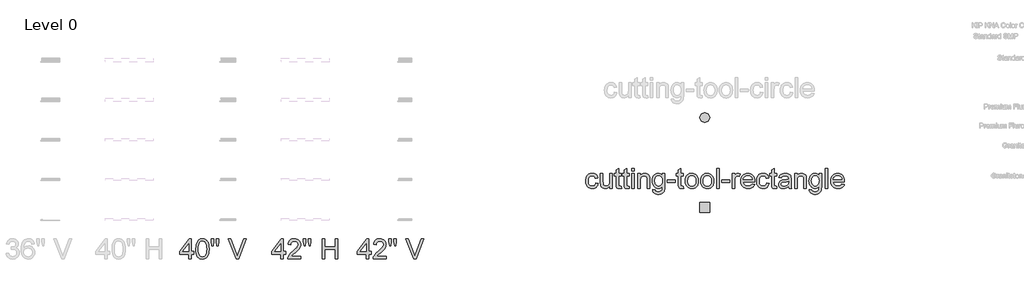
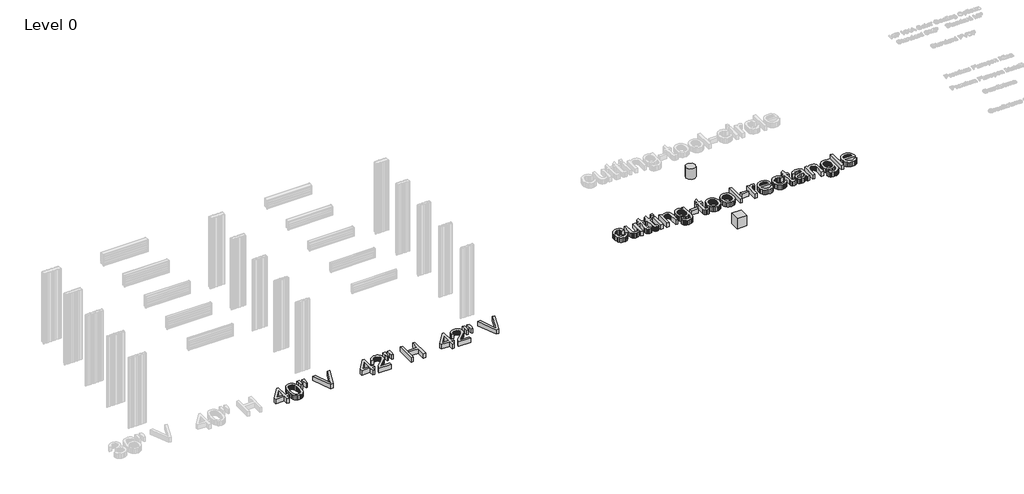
# One storey, part 4 of 5: 6 proxies.
"""IFC4 building model written with IfcOpenShell, lengths in millimetres."""

from ifc_helpers import new_model, si_unit, origin, origin_with_axes, place, context, project, spatial, polyline, outline, extrude, transform, mapped, element, save
from components import kingspan_ks_cutting_tool_circle_cutting_tool_circle_f6fe257a, kingspan_ks_cutting_tool_rectangle_cutting_tool_rectangle_f435e5aa

model = new_model("IFC4")

# Units and contexts
model_context = context("Model", 3, world=origin())
ifc_project = project(units=[si_unit("LENGTHUNIT", "METRE", prefix="MILLI")], contexts=[model_context])

# Site, building, storey
site = spatial("IfcSite", under=ifc_project)
building = spatial("IfcBuilding", under=site)
storey = spatial("IfcBuildingStorey", under=building, Name="Level 0", Elevation=0.0)

# Proxies
placement = place(None, origin())
element("IfcBuildingElementProxy", 1, Name="24\" Arial", ObjectType="24\" Arial", at=placement, inside=storey, context=model_context, shape_type="SweptSolid", body=[
    extrude(outline(polyline([(-11980.2863907, 7226.0033745), (-11980.2863907, 7368.7691999), (-12256.3003197, 7368.7691999), (-12256.3003197, 7444.9109734), (-11961.2509473, 7825.619841), (-11904.1446171, 7825.619841), (-11904.1446171, 7444.9109734), (-11828.0028436, 7444.9109734), (-11828.0028436, 7368.7691999), (-11904.1446171, 7368.7691999), (-11904.1446171, 7226.0033745), (-11980.2863907, 7226.0033745)]), holes=[polyline([(-11980.2863907, 7444.9109734), (-11980.2863907, 7680.1771564), (-12162.6102468, 7444.9109734), (-11980.2863907, 7444.9109734)])]), origin_with_axes(), (0.0, 0.0, 1.0), 152.4),
    extrude(outline(polyline([(-11761.3787918, 7525.6628934), (-11755.7834124, 7623.1637728), (-11748.7891882, 7664.5110237), (-11738.9972744, 7700.9228154), (-11726.4494968, 7732.6965767), (-11711.1876813, 7760.1297365), (-11693.211828, 7783.2222946), (-11672.521937, 7801.9742512), (-11649.0482982, 7816.4831999), (-11622.7212018, 7826.8467348), (-11593.5406478, 7833.0648557), (-11561.5066363, 7835.1375627), (-11514.5872427, 7830.2299874), (-11472.5754243, 7815.5072617), (-11437.4416469, 7791.5456538), (-11411.1563765, 7758.921432), (-11391.3030039, 7717.9134358), (-11375.4649202, 7668.8005047), (-11365.0920907, 7606.4334026), (-11361.6344808, 7525.6628934), (-11367.1740923, 7428.7196929), (-11374.0986066, 7387.5118618), (-11383.7929266, 7351.1465433), (-11396.2431104, 7319.35884), (-11411.435216, 7291.8838544), (-11429.3692433, 7268.7215863), (-11450.0451925, 7249.872036), (-11473.5467152, 7235.2654933), (-11499.9574634, 7224.8322486), (-11529.2774371, 7218.5723018), (-11561.5066363, 7216.4856528), (-11603.4440975, 7220.1105664), (-11640.6226979, 7230.985307), (-11673.0424374, 7249.1098747), (-11700.703316, 7274.4842694), (-11727.2488367, 7320.3533676), (-11746.2099228, 7377.506171), (-11757.5865746, 7445.9426796), (-11761.3787918, 7525.6628934)]), holes=[polyline([(-11685.2370183, 7525.8116078), (-11683.0063023, 7459.6197572), (-11676.3141542, 7406.0407467), (-11665.1605741, 7365.0745765), (-11649.5455619, 7336.7212464), (-11630.658833, 7317.4302001), (-11609.6901024, 7303.6508814), (-11586.6393701, 7295.3832901), (-11561.5066363, 7292.6274264), (-11536.3739025, 7295.3925848), (-11513.3231703, 7303.68806), (-11492.3544397, 7317.513852), (-11473.4677107, 7336.8699608), (-11457.8526985, 7365.2697641), (-11446.6991184, 7406.2266397), (-11440.0069704, 7459.7405876), (-11437.7762543, 7525.8116078), (-11439.9326132, 7590.2514168), (-11446.4016896, 7642.8870203), (-11457.1834837, 7683.7184181), (-11472.2779955, 7712.7456103), (-11490.8487063, 7732.9800636), (-11512.0590978, 7747.4332444), (-11535.90917, 7756.105153), (-11562.3989227, 7758.9957892), (-11587.4015315, 7756.449055), (-11610.0618884, 7748.8088527), (-11630.3799935, 7736.075182), (-11648.3558467, 7718.2480432), (-11664.4913593, 7686.6462329), (-11676.0167254, 7644.0395569), (-11682.9319451, 7590.4280152), (-11685.2370183, 7525.8116078)])]), origin_with_axes(), (0.0, 0.0, 1.0), 152.4),
    extrude(outline(polyline([(-11276.4211288, 7616.2299638), (-11295.010429, 7733.8630553), (-11295.010429, 7835.1375627), (-11218.8686555, 7835.1375627), (-11218.8686555, 7733.8630553), (-11235.5246684, 7616.2299638), (-11276.4211288, 7616.2299638)])), origin_with_axes(), (0.0, 0.0, 1.0), 152.4),
    extrude(outline(polyline([(-11124.583725, 7616.2299638), (-11142.726882, 7733.8630553), (-11142.726882, 7835.1375627), (-11066.5851084, 7835.1375627), (-11066.5851084, 7733.8630553), (-11084.4308366, 7616.2299638), (-11124.583725, 7616.2299638)])), origin_with_axes(), (0.0, 0.0, 1.0), 152.4),
    extrude(outline(polyline([(-10544.0027019, 7226.0033745), (-10786.4071762, 7835.1375627), (-10704.9116842, 7835.1375627), (-10542.6642723, 7396.2813641), (-10509.7983896, 7297.3862872), (-10477.3786501, 7396.2813641), (-10314.685095, 7835.1375627), (-10233.189603, 7835.1375627), (-10465.3327836, 7226.0033745), (-10544.0027019, 7226.0033745)])), origin_with_axes(), (0.0, 0.0, 1.0), 152.4),
])
element("IfcBuildingElementProxy", 2, Name="24\" Arial", ObjectType="24\" Arial", at=placement, inside=storey, context=model_context, shape_type="SweptSolid", body=[
    extrude(outline(polyline([(-9186.2863907, 7226.0033745), (-9186.2863907, 7368.7691999), (-9462.3003197, 7368.7691999), (-9462.3003197, 7444.9109734), (-9167.2509473, 7825.619841), (-9110.1446171, 7825.619841), (-9110.1446171, 7444.9109734), (-9034.0028436, 7444.9109734), (-9034.0028436, 7368.7691999), (-9110.1446171, 7368.7691999), (-9110.1446171, 7226.0033745), (-9186.2863907, 7226.0033745)]), holes=[polyline([(-9186.2863907, 7444.9109734), (-9186.2863907, 7680.1771564), (-9368.6102468, 7444.9109734), (-9186.2863907, 7444.9109734)])]), origin_with_axes(), (0.0, 0.0, 1.0), 152.4),
    extrude(outline(polyline([(-8577.1522025, 7302.1451481), (-8577.1522025, 7226.0033745), (-8976.8965135, 7226.0033745), (-8975.2234765, 7252.8091454), (-8968.7172214, 7278.4995582), (-8949.9420282, 7319.5261437), (-8922.4670426, 7359.3258354), (-8882.7231188, 7400.9844571), (-8827.1411113, 7447.5878326), (-8744.9764045, 7520.5694251), (-8695.6775804, 7574.441217), (-8681.2987567, 7596.4509484), (-8671.0281684, 7618.163251), (-8664.8658154, 7639.5781248), (-8662.8116977, 7660.6955698), (-8664.7496323, 7680.5628844), (-8670.5634359, 7698.8222245), (-8680.2531086, 7715.4735901), (-8693.8186504, 7730.5169813), (-8710.5071946, 7742.9764597), (-8729.5658747, 7751.8760872), (-8750.9946904, 7757.2158637), (-8774.793642, 7758.9957892), (-8799.8659606, 7757.2576896), (-8822.2893039, 7752.0433909), (-8842.063672, 7743.3528931), (-8859.1890648, 7731.1861961), (-8873.0427407, 7715.9522646), (-8883.0019583, 7698.0600632), (-8889.0667175, 7677.5095918), (-8891.2370183, 7654.3008506), (-8967.3787918, 7663.8185723), (-8960.8307108, 7703.1256475), (-8948.9196167, 7737.4693796), (-8931.6455095, 7766.8497685), (-8909.0083892, 7791.2668143), (-8881.5287563, 7810.4602667), (-8849.727111, 7824.1698756), (-8813.6034534, 7832.3956409), (-8773.1577836, 7835.1375627), (-8732.3496224, 7832.0889174), (-8696.0307771, 7822.9429818), (-8664.2012479, 7807.6997556), (-8636.8610347, 7786.359239), (-8614.9024238, 7760.5015225), (-8599.2177018, 7731.7066965), (-8589.8068686, 7699.9747611), (-8586.6699242, 7665.3057163), (-8590.0531768, 7628.8892772), (-8600.2029347, 7593.1048744), (-8618.2159666, 7556.7070247), (-8645.1890412, 7518.4502449), (-8688.1860925, 7472.7763344), (-8754.2710546, 7414.1270923), (-8841.863837, 7340.8852496), (-8876.2168637, 7302.1451481), (-8577.1522025, 7302.1451481)])), origin_with_axes(), (0.0, 0.0, 1.0), 152.4),
    extrude(outline(polyline([(-8482.4211288, 7616.2299638), (-8501.010429, 7733.8630553), (-8501.010429, 7835.1375627), (-8424.8686555, 7835.1375627), (-8424.8686555, 7733.8630553), (-8441.5246684, 7616.2299638), (-8482.4211288, 7616.2299638)])), origin_with_axes(), (0.0, 0.0, 1.0), 152.4),
    extrude(outline(polyline([(-8330.583725, 7616.2299638), (-8348.726882, 7733.8630553), (-8348.726882, 7835.1375627), (-8272.5851084, 7835.1375627), (-8272.5851084, 7733.8630553), (-8290.4308366, 7616.2299638), (-8330.583725, 7616.2299638)])), origin_with_axes(), (0.0, 0.0, 1.0), 152.4),
    extrude(outline(polyline([(-7929.9471276, 7226.0033745), (-7929.9471276, 7835.1375627), (-7853.8053541, 7835.1375627), (-7853.8053541, 7587.6767987), (-7530.2028167, 7587.6767987), (-7530.2028167, 7835.1375627), (-7454.0610431, 7835.1375627), (-7454.0610431, 7226.0033745), (-7530.2028167, 7226.0033745), (-7530.2028167, 7511.5350252), (-7853.8053541, 7511.5350252), (-7853.8053541, 7226.0033745), (-7929.9471276, 7226.0033745)])), origin_with_axes(), (0.0, 0.0, 1.0), 152.4),
])
element("IfcBuildingElementProxy", 3, Name="24\" Arial", ObjectType="24\" Arial", at=placement, inside=storey, context=model_context, shape_type="SweptSolid", body=[
    extrude(outline(polyline([(-6595.4863907, 7226.0033745), (-6595.4863907, 7368.7691999), (-6871.5003197, 7368.7691999), (-6871.5003197, 7444.9109734), (-6576.4509473, 7825.619841), (-6519.3446171, 7825.619841), (-6519.3446171, 7444.9109734), (-6443.2028436, 7444.9109734), (-6443.2028436, 7368.7691999), (-6519.3446171, 7368.7691999), (-6519.3446171, 7226.0033745), (-6595.4863907, 7226.0033745)]), holes=[polyline([(-6595.4863907, 7444.9109734), (-6595.4863907, 7680.1771564), (-6777.8102468, 7444.9109734), (-6595.4863907, 7444.9109734)])]), origin_with_axes(), (0.0, 0.0, 1.0), 152.4),
    extrude(outline(polyline([(-5986.3522025, 7302.1451481), (-5986.3522025, 7226.0033745), (-6386.0965135, 7226.0033745), (-6384.4234765, 7252.8091454), (-6377.9172214, 7278.4995582), (-6359.1420282, 7319.5261437), (-6331.6670426, 7359.3258354), (-6291.9231188, 7400.9844571), (-6236.3411113, 7447.5878326), (-6154.1764045, 7520.5694251), (-6104.8775804, 7574.441217), (-6090.4987567, 7596.4509484), (-6080.2281684, 7618.163251), (-6074.0658154, 7639.5781248), (-6072.0116977, 7660.6955698), (-6073.9496323, 7680.5628844), (-6079.7634359, 7698.8222245), (-6089.4531086, 7715.4735901), (-6103.0186504, 7730.5169813), (-6119.7071946, 7742.9764597), (-6138.7658747, 7751.8760872), (-6160.1946904, 7757.2158637), (-6183.993642, 7758.9957892), (-6209.0659606, 7757.2576896), (-6231.4893039, 7752.0433909), (-6251.263672, 7743.3528931), (-6268.3890648, 7731.1861961), (-6282.2427407, 7715.9522646), (-6292.2019583, 7698.0600632), (-6298.2667175, 7677.5095918), (-6300.4370183, 7654.3008506), (-6376.5787918, 7663.8185723), (-6370.0307108, 7703.1256475), (-6358.1196167, 7737.4693796), (-6340.8455095, 7766.8497685), (-6318.2083892, 7791.2668143), (-6290.7287563, 7810.4602667), (-6258.927111, 7824.1698756), (-6222.8034534, 7832.3956409), (-6182.3577836, 7835.1375627), (-6141.5496224, 7832.0889174), (-6105.2307771, 7822.9429818), (-6073.4012479, 7807.6997556), (-6046.0610347, 7786.359239), (-6024.1024238, 7760.5015225), (-6008.4177018, 7731.7066965), (-5999.0068686, 7699.9747611), (-5995.8699242, 7665.3057163), (-5999.2531768, 7628.8892772), (-6009.4029347, 7593.1048744), (-6027.4159666, 7556.7070247), (-6054.3890412, 7518.4502449), (-6097.3860925, 7472.7763344), (-6163.4710546, 7414.1270923), (-6251.063837, 7340.8852496), (-6285.4168637, 7302.1451481), (-5986.3522025, 7302.1451481)])), origin_with_axes(), (0.0, 0.0, 1.0), 152.4),
    extrude(outline(polyline([(-5891.6211288, 7616.2299638), (-5910.210429, 7733.8630553), (-5910.210429, 7835.1375627), (-5834.0686555, 7835.1375627), (-5834.0686555, 7733.8630553), (-5850.7246684, 7616.2299638), (-5891.6211288, 7616.2299638)])), origin_with_axes(), (0.0, 0.0, 1.0), 152.4),
    extrude(outline(polyline([(-5739.783725, 7616.2299638), (-5757.926882, 7733.8630553), (-5757.926882, 7835.1375627), (-5681.7851084, 7835.1375627), (-5681.7851084, 7733.8630553), (-5699.6308366, 7616.2299638), (-5739.783725, 7616.2299638)])), origin_with_axes(), (0.0, 0.0, 1.0), 152.4),
    extrude(outline(polyline([(-5159.2027019, 7226.0033745), (-5401.6071762, 7835.1375627), (-5320.1116842, 7835.1375627), (-5157.8642723, 7396.2813641), (-5124.9983896, 7297.3862872), (-5092.5786501, 7396.2813641), (-4929.885095, 7835.1375627), (-4848.389603, 7835.1375627), (-5080.5327836, 7226.0033745), (-5159.2027019, 7226.0033745)])), origin_with_axes(), (0.0, 0.0, 1.0), 152.4),
])
element("IfcBuildingElementProxy", 4, Name="24\" Arial", ObjectType="24\" Arial", at=placement, inside=storey, context=model_context, shape_type="SweptSolid", body=[
    extrude(outline(polyline([(358.2774016, 9526.3022636), (434.4191751, 9516.7845419), (426.1376419, 9480.856072), (413.1901943, 9449.0637214), (395.5768324, 9421.4074901), (373.2975561, 9397.887378), (347.2911252, 9379.1168322), (318.4962992, 9365.7092994), (286.9130782, 9357.6647798), (252.5414622, 9354.9832732), (209.8371923, 9358.7243699), (171.5478813, 9369.9476598), (137.6735291, 9388.6531431), (108.2141356, 9414.8408198), (84.3687108, 9448.0180733), (67.3362645, 9487.6922872), (57.1167968, 9533.8634615), (53.7103075, 9586.5315962), (59.5287585, 9654.2895953), (66.8018221, 9684.7806949), (76.9841113, 9713.0131946), (90.1453358, 9738.4201206), (106.3552056, 9760.4344993), (125.6137206, 9779.0563308), (147.9208808, 9794.2856149), (172.2682167, 9806.1269992), (197.6472588, 9814.5851307), (224.058007, 9819.6600097), (251.5004614, 9821.351636), (285.2818671, 9819.0279735), (315.8380293, 9812.0569859), (343.1689478, 9800.4386733), (367.2746228, 9784.1730356), (387.7460897, 9763.631859), (404.1743837, 9739.1869292), (416.5595049, 9710.8382465), (424.9014534, 9678.5858107), (348.7596799, 9669.068089), (334.9478298, 9702.2871684), (313.4400095, 9726.1000619), (285.4259342, 9740.4324123), (252.095319, 9745.2098625), (226.2236604, 9742.858316), (202.8894414, 9735.8036766), (182.0926618, 9724.0459442), (163.8333217, 9707.5851189), (148.9665289, 9686.04012), (138.3473912, 9659.0298669), (131.9759086, 9626.5543595), (129.852081, 9588.6135978), (131.9294353, 9550.1012152), (138.1614982, 9517.2492744), (148.5482697, 9490.0577756), (163.0897497, 9468.5267187), (180.9865985, 9452.1634872), (201.439476, 9440.4754647), (224.4483823, 9433.4626512), (250.0133173, 9431.1250467), (289.441223, 9436.962087), (306.4922586, 9444.2583873), (321.768016, 9454.4732077), (334.8409414, 9467.7180841), (345.2834807, 9484.1045522), (353.0956341, 9503.6326121), (358.2774016, 9526.3022636)])), origin_with_axes(), (0.0, 0.0, 1.0), 152.4),
    extrude(outline(polyline([(786.5748776, 9364.5009949), (786.5748776, 9441.3863404), (759.0255347, 9403.5849985), (726.9404026, 9376.58404), (690.3194813, 9360.3834649), (649.1627707, 9354.9832732), (612.0771169, 9358.7754904), (577.5567864, 9370.1521421), (548.5946568, 9387.2542983), (528.1836052, 9408.2230289), (514.4461123, 9433.6903701), (505.504659, 9464.2883582), (501.0432269, 9535.0764133), (501.0432269, 9811.8339143), (577.1850004, 9811.8339143), (577.1850004, 9570.916584), (578.337537, 9522.733118), (581.7951469, 9493.2876665), (592.8929591, 9467.3927714), (611.9098132, 9447.7067025), (637.5816367, 9435.2704607), (668.6443573, 9431.1250467), (701.4916507, 9435.3634072), (732.2197639, 9448.0784885), (757.55698, 9468.0991648), (774.2315823, 9494.2543101), (783.4890538, 9530.0758916), (786.5748776, 9579.0958761), (786.5748776, 9811.8339143), (862.7166511, 9811.8339143), (862.7166511, 9364.5009949), (786.5748776, 9364.5009949)])), origin_with_axes(), (0.0, 0.0, 1.0), 152.4),
    extrude(outline(polyline([(1129.2128584, 9428.0020443), (1138.7305801, 9362.2702789), (1108.5787352, 9356.8050246), (1081.7729644, 9354.9832732), (1045.2264002, 9358.1434542), (1017.9744862, 9367.6239973), (998.7159712, 9382.2351873), (986.1496043, 9400.7873088), (979.2343846, 9432.6493693), (976.9293114, 9487.1903761), (976.9293114, 9735.6921408), (919.8229813, 9735.6921408), (919.8229813, 9811.8339143), (976.9293114, 9811.8339143), (976.9293114, 9920.5441417), (1053.0710849, 9965.3071766), (1053.0710849, 9811.8339143), (1129.2128584, 9811.8339143), (1129.2128584, 9735.6921408), (1053.0710849, 9735.6921408), (1053.0710849, 9489.4210921), (1057.0863737, 9450.1604901), (1070.0988839, 9436.2556936), (1081.0851603, 9432.4077084), (1096.0495469, 9431.1250467), (1129.2128584, 9428.0020443)])), origin_with_axes(), (0.0, 0.0, 1.0), 152.4),
    extrude(outline(polyline([(1367.1559007, 9428.0020443), (1376.6736224, 9362.2702789), (1346.5217775, 9356.8050246), (1319.7160066, 9354.9832732), (1283.1694425, 9358.1434542), (1255.9175284, 9367.6239973), (1236.6590134, 9382.2351873), (1224.0926465, 9400.7873088), (1217.1774269, 9432.6493693), (1214.8723536, 9487.1903761), (1214.8723536, 9735.6921408), (1157.7660235, 9735.6921408), (1157.7660235, 9811.8339143), (1214.8723536, 9811.8339143), (1214.8723536, 9920.5441417), (1291.0141271, 9965.3071766), (1291.0141271, 9811.8339143), (1367.1559007, 9811.8339143), (1367.1559007, 9735.6921408), (1291.0141271, 9735.6921408), (1291.0141271, 9489.4210921), (1295.029416, 9450.1604901), (1308.0419261, 9436.2556936), (1319.0282025, 9432.4077084), (1333.9925892, 9431.1250467), (1367.1559007, 9428.0020443)])), origin_with_axes(), (0.0, 0.0, 1.0), 152.4),
    extrude(outline(polyline([(1443.2976742, 9897.4934095), (1443.2976742, 9973.635183), (1519.4394477, 9973.635183), (1519.4394477, 9897.4934095), (1443.2976742, 9897.4934095)])), origin_with_axes(), (0.0, 0.0, 1.0), 152.4),
    extrude(outline(polyline([(1443.2976742, 9364.5009949), (1443.2976742, 9811.8339143), (1519.4394477, 9811.8339143), (1519.4394477, 9364.5009949), (1443.2976742, 9364.5009949)])), origin_with_axes(), (0.0, 0.0, 1.0), 152.4),
    extrude(outline(polyline([(1633.652108, 9364.5009949), (1633.652108, 9811.8339143), (1709.7938815, 9811.8339143), (1709.7938815, 9749.3738657), (1736.2464556, 9780.8641402), (1768.0155696, 9803.3571934), (1805.1012235, 9816.8530254), (1847.5034172, 9821.351636), (1885.0352142, 9817.7267225), (1919.4068303, 9806.8519819), (1948.0715311, 9790.0844331), (1968.4825827, 9768.7810951), (1982.3316114, 9742.9977358), (1991.3102433, 9712.790123), (1995.3255322, 9639.1764943), (1995.3255322, 9364.5009949), (1919.1837587, 9364.5009949), (1919.1837587, 9628.9152006), (1916.9902212, 9668.2873384), (1910.409609, 9696.2828244), (1898.270796, 9716.3406793), (1879.4026563, 9731.8999236), (1855.2179768, 9741.8823778), (1827.1295442, 9745.2098625), (1804.0091021, 9743.3416378), (1782.5338131, 9737.7369638), (1762.7036771, 9728.3958405), (1744.5186942, 9715.3182678), (1729.3265887, 9697.0171018), (1718.4750847, 9672.0051984), (1711.9641823, 9640.2825576), (1709.7938815, 9601.8491795), (1709.7938815, 9364.5009949), (1633.652108, 9364.5009949)])), origin_with_axes(), (0.0, 0.0, 1.0), 152.4),
    extrude(outline(polyline([(2080.9850274, 9326.4301081), (2157.1268009, 9316.9123864), (2165.5291646, 9293.1180822), (2181.8133915, 9276.7594981), (2213.8241664, 9264.0444168), (2255.724449, 9259.8060563), (2300.4131267, 9264.6020958), (2318.4633371, 9270.5971451), (2333.6507954, 9278.9902141), (2356.7015276, 9302.0409463), (2370.8293957, 9332.8248274), (2374.9562204, 9365.5791743), (2376.0343998, 9421.607325), (2350.6971836, 9396.6233056), (2322.4228581, 9378.7775774), (2291.2114231, 9368.0701405), (2257.0628786, 9364.5009949), (2215.3159578, 9368.6557035), (2178.560264, 9381.1198293), (2146.7957973, 9401.8933722), (2120.0225578, 9430.9763323), (2098.779635, 9465.8684488), (2083.6061187, 9504.0694606), (2074.502009, 9545.5793679), (2071.4673057, 9590.3981706), (2076.9139707, 9651.8729863), (2093.2539655, 9708.4030481), (2105.3648946, 9733.893626), (2119.911022, 9756.3076747), (2136.8923477, 9775.6451942), (2156.3088717, 9791.9061845), (2177.8492233, 9804.7885695), (2201.2020316, 9813.9902731), (2226.3672967, 9819.5112953), (2253.3450186, 9821.351636), (2288.9528231, 9817.1876328), (2321.2703215, 9804.695623), (2350.2975137, 9783.8756068), (2376.0343998, 9754.7275842), (2376.0343998, 9811.8339143), (2452.1761733, 9811.8339143), (2452.1761733, 9425.6226139), (2446.9711692, 9336.4497409), (2440.4649142, 9303.2817821), (2431.3561571, 9277.7261417), (2419.4264737, 9257.1152551), (2404.4574397, 9238.7815578), (2386.4490552, 9222.7250498), (2365.4013201, 9208.945731), (2341.5280113, 9197.8850974), (2315.0429059, 9189.9846449), (2285.9460038, 9185.2443733), (2254.237305, 9183.6642828), (2216.9332269, 9185.8903515), (2183.3934821, 9192.5685576), (2153.6180705, 9203.6989011), (2127.6069922, 9219.2813819), (2106.5964357, 9239.3345895), (2091.8225894, 9263.877113), (2083.2854533, 9292.9089526), (2080.9850274, 9326.4301081)]), holes=[polyline([(2147.6090792, 9595.6031747), (2149.6399603, 9557.9551945), (2155.7326034, 9525.7631739), (2165.8870086, 9499.0271129), (2180.1031759, 9477.7470116), (2197.3865778, 9461.5139052), (2216.7426866, 9449.9188292), (2238.1715023, 9442.9617836), (2261.6730251, 9440.6427684), (2284.9421816, 9442.9478416), (2306.2687562, 9449.8630613), (2325.652749, 9461.3884274), (2343.0941599, 9477.52394), (2357.5055148, 9498.5949117), (2367.7993398, 9524.9266554), (2373.9756348, 9556.5191711), (2376.0343998, 9593.3724587), (2373.9152195, 9628.6874817), (2367.5576789, 9659.3830636), (2356.9617778, 9685.4592044), (2342.1275162, 9706.9159041), (2324.309672, 9723.6695109), (2304.7630229, 9735.6363729), (2283.4875688, 9742.8164901), (2260.4833099, 9745.2098625), (2237.8647789, 9742.8536687), (2217.0029368, 9735.7850873), (2197.8977835, 9724.0041183), (2180.5493191, 9707.5107617), (2166.1379642, 9686.3793748), (2155.8441392, 9660.6843146), (2149.6678442, 9630.4255812), (2147.6090792, 9595.6031747)])]), origin_with_axes(), (0.0, 0.0, 1.0), 152.4),
    extrude(outline(polyline([(2528.3179468, 9545.337707), (2528.3179468, 9621.4794805), (2766.260989, 9621.4794805), (2766.260989, 9545.337707), (2528.3179468, 9545.337707)])), origin_with_axes(), (0.0, 0.0, 1.0), 152.4),
    extrude(outline(polyline([(3013.721753, 9428.0020443), (3023.2394747, 9362.2702789), (2993.0876298, 9356.8050246), (2966.2818589, 9354.9832732), (2929.7352948, 9358.1434542), (2902.4833807, 9367.6239973), (2883.2248657, 9382.2351873), (2870.6584988, 9400.7873088), (2863.7432792, 9432.6493693), (2861.4382059, 9487.1903761), (2861.4382059, 9735.6921408), (2804.3318758, 9735.6921408), (2804.3318758, 9811.8339143), (2861.4382059, 9811.8339143), (2861.4382059, 9920.5441417), (2937.5799795, 9965.3071766), (2937.5799795, 9811.8339143), (3013.721753, 9811.8339143), (3013.721753, 9735.6921408), (2937.5799795, 9735.6921408), (2937.5799795, 9489.4210921), (2941.5952683, 9450.1604901), (2954.6077784, 9436.2556936), (2965.5940548, 9432.4077084), (2980.5584415, 9431.1250467), (3013.721753, 9428.0020443)])), origin_with_axes(), (0.0, 0.0, 1.0), 152.4),
    extrude(outline(polyline([(3070.8280831, 9588.1674546), (3074.9456131, 9646.1010086), (3087.2982031, 9696.0225742), (3107.885853, 9737.9321515), (3136.7085629, 9771.8297403), (3165.7264605, 9793.4955697), (3197.7558247, 9808.9711621), (3232.7966555, 9818.2565175), (3270.848953, 9821.351636), (3312.8561241, 9817.5826554), (3350.8387116, 9806.2757136), (3384.7967157, 9787.4308105), (3414.7301363, 9761.0479462), (3439.1611241, 9728.0194071), (3456.6118296, 9689.2374797), (3467.082253, 9644.7021638), (3470.5723941, 9594.4134595), (3469.0294822, 9553.6564188), (3464.4007464, 9517.4909353), (3456.6861868, 9485.917009), (3445.8858034, 9458.9346398), (3432.1343686, 9435.6283047), (3415.5666549, 9415.0824807), (3396.1826621, 9397.2971677), (3373.9823904, 9382.2723659), (3349.8302421, 9370.3333878), (3324.5906198, 9361.8055464), (3298.2635234, 9356.6888415), (3270.848953, 9354.9832732), (3228.228335, 9358.7383118), (3189.8925507, 9370.0034277), (3155.8416001, 9388.7786209), (3126.0754832, 9415.0638914), (3101.9047457, 9448.4130959), (3084.6399331, 9488.3800913), (3074.2810456, 9534.9648775), (3070.8280831, 9588.1674546)]), holes=[polyline([(3146.9698566, 9588.316169), (3149.1726887, 9551.3838769), (3155.7811849, 9519.4056333), (3166.7953453, 9492.3814381), (3182.2151698, 9470.3112915), (3200.9717736, 9453.1673094), (3221.9962721, 9440.9216079), (3245.2886653, 9433.574187), (3270.848953, 9431.1250467), (3296.2791156, 9433.588129), (3319.4785623, 9440.9773758), (3340.4472928, 9453.2927872), (3359.1853074, 9470.5343631), (3374.6051319, 9492.822934), (3385.6192923, 9520.2793304), (3392.2277885, 9552.9035522), (3394.4306206, 9590.6955994), (3392.2138465, 9626.4567656), (3385.5635244, 9657.5984908), (3374.4796541, 9684.1207748), (3358.9622358, 9706.0236177), (3340.1545114, 9723.1675998), (3319.1997227, 9735.4133013), (3296.09787, 9742.7607222), (3270.848953, 9745.2098625), (3245.2886653, 9742.7700168), (3221.9962721, 9735.4504799), (3200.9717736, 9723.2512516), (3182.2151698, 9706.1723321), (3166.7953453, 9684.167248), (3155.7811849, 9657.1895262), (3149.1726887, 9625.2391665), (3146.9698566, 9588.316169)])]), origin_with_axes(), (0.0, 0.0, 1.0), 152.4),
    extrude(outline(polyline([(3537.1964459, 9588.1674546), (3541.3139759, 9646.1010086), (3553.6665659, 9696.0225742), (3574.2542158, 9737.9321515), (3603.0769257, 9771.8297403), (3632.0948233, 9793.4955697), (3664.1241875, 9808.9711621), (3699.1650183, 9818.2565175), (3737.2173158, 9821.351636), (3779.2244869, 9817.5826554), (3817.2070744, 9806.2757136), (3851.1650785, 9787.4308105), (3881.0984991, 9761.0479462), (3905.5294869, 9728.0194071), (3922.9801924, 9689.2374797), (3933.4506158, 9644.7021638), (3936.9407569, 9594.4134595), (3935.397845, 9553.6564188), (3930.7691092, 9517.4909353), (3923.0545496, 9485.917009), (3912.2541662, 9458.9346398), (3898.5027314, 9435.6283047), (3881.9350176, 9415.0824807), (3862.5510249, 9397.2971677), (3840.3507532, 9382.2723659), (3816.1986049, 9370.3333878), (3790.9589826, 9361.8055464), (3764.6318862, 9356.6888415), (3737.2173158, 9354.9832732), (3694.5966978, 9358.7383118), (3656.2609135, 9370.0034277), (3622.2099629, 9388.7786209), (3592.443846, 9415.0638914), (3568.2731085, 9448.4130959), (3551.0082959, 9488.3800913), (3540.6494084, 9534.9648775), (3537.1964459, 9588.1674546)]), holes=[polyline([(3613.3382194, 9588.316169), (3615.5410515, 9551.3838769), (3622.1495477, 9519.4056333), (3633.1637081, 9492.3814381), (3648.5835326, 9470.3112915), (3667.3401364, 9453.1673094), (3688.3646349, 9440.9216079), (3711.657028, 9433.574187), (3737.2173158, 9431.1250467), (3762.6474784, 9433.588129), (3785.846925, 9440.9773758), (3806.8156556, 9453.2927872), (3825.5536702, 9470.5343631), (3840.9734947, 9492.822934), (3851.9876551, 9520.2793304), (3858.5961513, 9552.9035522), (3860.7989834, 9590.6955994), (3858.5822093, 9626.4567656), (3851.9318872, 9657.5984908), (3840.8480169, 9684.1207748), (3825.3305986, 9706.0236177), (3806.5228742, 9723.1675998), (3785.5680855, 9735.4133013), (3762.4662327, 9742.7607222), (3737.2173158, 9745.2098625), (3711.657028, 9742.7700168), (3688.3646349, 9735.4504799), (3667.3401364, 9723.2512516), (3648.5835326, 9706.1723321), (3633.1637081, 9684.167248), (3622.1495477, 9657.1895262), (3615.5410515, 9625.2391665), (3613.3382194, 9588.316169)])]), origin_with_axes(), (0.0, 0.0, 1.0), 152.4),
    extrude(outline(polyline([(4022.6002521, 9364.5009949), (4022.6002521, 9973.635183), (4098.7420256, 9973.635183), (4098.7420256, 9364.5009949), (4022.6002521, 9364.5009949)])), origin_with_axes(), (0.0, 0.0, 1.0), 152.4),
    extrude(outline(polyline([(4174.8837991, 9545.337707), (4174.8837991, 9621.4794805), (4412.8268413, 9621.4794805), (4412.8268413, 9545.337707), (4174.8837991, 9545.337707)])), origin_with_axes(), (0.0, 0.0, 1.0), 152.4),
    extrude(outline(polyline([(4498.4863366, 9364.5009949), (4498.4863366, 9811.8339143), (4565.1103884, 9811.8339143), (4565.1103884, 9745.6560057), (4589.7226218, 9784.0243212), (4612.401568, 9806.6289103), (4635.1548714, 9817.6709546), (4659.9901765, 9821.351636), (4697.9123488, 9815.4774171), (4736.4293788, 9797.8547606), (4710.9992162, 9729.5948503), (4684.2306239, 9741.3061094), (4657.4620317, 9745.2098625), (4634.7273175, 9741.4548238), (4614.4092124, 9730.1897079), (4597.9948604, 9712.2696226), (4586.9714054, 9688.5496755), (4577.7139339, 9646.0173567), (4574.6281101, 9599.6184635), (4574.6281101, 9364.5009949), (4498.4863366, 9364.5009949)])), origin_with_axes(), (0.0, 0.0, 1.0), 152.4),
    extrude(outline(polyline([(5097.2105166, 9497.7490986), (5171.8651461, 9488.2313769), (5160.4187845, 9458.3304875), (5144.9664287, 9431.9801545), (5125.5080788, 9409.1803779), (5102.0437346, 9389.9311575), (5074.8150572, 9374.6414581), (5044.0637074, 9363.7202443), (5009.7896852, 9357.167516), (4971.9929906, 9354.9832732), (4924.7482842, 9358.7522538), (4882.652814, 9370.0591956), (4845.7065799, 9388.9040987), (4813.9095819, 9415.286963), (4788.3399995, 9448.4735111), (4770.0760121, 9487.7294658), (4759.1176197, 9533.0548269), (4755.4648222, 9584.4495946), (4759.1547983, 9637.5871091), (4770.2247265, 9684.4228509), (4788.6746069, 9724.9568199), (4814.5044395, 9759.1890162), (4846.2177856, 9786.3851624), (4882.3182066, 9805.8109811), (4922.8057024, 9817.4664723), (4967.680273, 9821.351636), (5011.1095255, 9817.4757669), (5050.3840695, 9805.8481597), (5085.5039048, 9786.4688142), (5116.4690316, 9759.3377306), (5141.7458325, 9725.1798915), (5159.8006903, 9684.7202797), (5170.633605, 9637.9588951), (5174.2445765, 9584.8957378), (5173.7984333, 9564.3731504), (4831.6065957, 9564.3731504), (4836.0169072, 9533.9889392), (4844.7864095, 9507.378356), (4857.9151028, 9484.5414008), (4875.4029869, 9465.4780734), (4896.2834183, 9450.4486243), (4919.5897534, 9439.7133034), (4945.3219922, 9433.2721109), (4973.4801346, 9431.1250467), (5014.004809, 9435.103157), (5048.1347641, 9447.0374877), (5075.87, 9467.6716109), (5097.2105166, 9497.7490986)]), holes=[polyline([(4831.6065957, 9640.5149239), (5098.102803, 9640.5149239), (5087.8043307, 9680.7421695), (5078.9465292, 9696.5616639), (5067.6163507, 9709.5184061), (5046.8521024, 9725.1334183), (5023.2251019, 9736.2869984), (4996.7353491, 9742.9791465), (4967.3828442, 9745.2098625), (4940.6096046, 9743.429937), (4916.0577864, 9738.0901605), (4893.7273896, 9729.1905331), (4873.6184141, 9716.7310546), (4856.7439769, 9701.2879935), (4844.1171947, 9683.437618), (4835.7380677, 9663.1799281), (4831.6065957, 9640.5149239)])]), origin_with_axes(), (0.0, 0.0, 1.0), 152.4),
    extrude(outline(polyline([(5535.9180007, 9526.3022636), (5612.0597742, 9516.7845419), (5603.778241, 9480.856072), (5590.8307934, 9449.0637214), (5573.2174315, 9421.4074901), (5550.9381553, 9397.887378), (5524.9317243, 9379.1168322), (5496.1368984, 9365.7092994), (5464.5536774, 9357.6647798), (5430.1820613, 9354.9832732), (5387.4777915, 9358.7243699), (5349.1884805, 9369.9476598), (5315.3141282, 9388.6531431), (5285.8547348, 9414.8408198), (5262.00931, 9448.0180733), (5244.9768637, 9487.6922872), (5234.7573959, 9533.8634615), (5231.3509067, 9586.5315962), (5237.1693576, 9654.2895953), (5244.4424213, 9684.7806949), (5254.6247105, 9713.0131946), (5267.785935, 9738.4201206), (5283.9958048, 9760.4344993), (5303.2543197, 9779.0563308), (5325.5614799, 9794.2856149), (5349.9088158, 9806.1269992), (5375.2878579, 9814.5851307), (5401.6986061, 9819.6600097), (5429.1410605, 9821.351636), (5462.9224663, 9819.0279735), (5493.4786284, 9812.0569859), (5520.809547, 9800.4386733), (5544.915222, 9784.1730356), (5565.3866888, 9763.631859), (5581.8149829, 9739.1869292), (5594.2001041, 9710.8382465), (5602.5420526, 9678.5858107), (5526.400279, 9669.068089), (5512.588429, 9702.2871684), (5491.0806087, 9726.1000619), (5463.0665333, 9740.4324123), (5429.7359181, 9745.2098625), (5403.8642596, 9742.858316), (5380.5300406, 9735.8036766), (5359.733261, 9724.0459442), (5341.4739209, 9707.5851189), (5326.6071281, 9686.04012), (5315.9879904, 9659.0298669), (5309.6165077, 9626.5543595), (5307.4926802, 9588.6135978), (5309.5700345, 9550.1012152), (5315.8020974, 9517.2492744), (5326.1888688, 9490.0577756), (5340.7303489, 9468.5267187), (5358.6271976, 9452.1634872), (5379.0800751, 9440.4754647), (5402.0889814, 9433.4626512), (5427.6539165, 9431.1250467), (5467.0818222, 9436.962087), (5484.1328578, 9444.2583873), (5499.4086152, 9454.4732077), (5512.4815405, 9467.7180841), (5522.9240799, 9484.1045522), (5530.7362333, 9503.6326121), (5535.9180007, 9526.3022636)])), origin_with_axes(), (0.0, 0.0, 1.0), 152.4),
    extrude(outline(polyline([(5840.4850948, 9428.0020443), (5850.0028165, 9362.2702789), (5819.8509716, 9356.8050246), (5793.0452007, 9354.9832732), (5756.4986366, 9358.1434542), (5729.2467225, 9367.6239973), (5709.9882076, 9382.2351873), (5697.4218406, 9400.7873088), (5690.506621, 9432.6493693), (5688.2015478, 9487.1903761), (5688.2015478, 9735.6921408), (5631.0952176, 9735.6921408), (5631.0952176, 9811.8339143), (5688.2015478, 9811.8339143), (5688.2015478, 9920.5441417), (5764.3433213, 9965.3071766), (5764.3433213, 9811.8339143), (5840.4850948, 9811.8339143), (5840.4850948, 9735.6921408), (5764.3433213, 9735.6921408), (5764.3433213, 9489.4210921), (5768.3586101, 9450.1604901), (5781.3711202, 9436.2556936), (5792.3573966, 9432.4077084), (5807.3217833, 9431.1250467), (5840.4850948, 9428.0020443)])), origin_with_axes(), (0.0, 0.0, 1.0), 152.4),
    extrude(outline(polyline([(6202.158519, 9421.607325), (6165.7792586, 9390.4144793), (6128.3218187, 9370.0034277), (6088.9310916, 9358.7383118), (6046.7519695, 9354.9832732), (6012.8497333, 9357.2418732), (5983.120795, 9364.0176731), (5957.5651546, 9375.3106729), (5936.1828121, 9391.1208727), (5919.2990802, 9410.4444503), (5907.2392717, 9432.2775833), (5900.0033866, 9456.6202719), (5897.5914249, 9483.472516), (5901.2349278, 9515.0371477), (5912.1654363, 9543.7018486), (5929.0259315, 9568.2397248), (5950.4593946, 9587.4238826), (5975.6478964, 9601.9235367), (6003.7735075, 9612.407902), (6069.6539874, 9623.8589109), (6147.5059765, 9635.9047775), (6201.7123758, 9650.0326456), (6202.158519, 9666.9860873), (6196.9163364, 9700.9673281), (6190.363608, 9713.5522843), (6181.1897884, 9723.2001311), (6165.3331154, 9732.8293886), (6146.0188325, 9739.7074296), (6097.0174372, 9745.2098625), (6051.6595448, 9741.5477703), (6019.9833773, 9730.5614939), (5998.3826105, 9710.2433889), (5983.2509201, 9678.5858107), (5907.1091466, 9688.1035323), (5920.326139, 9729.7435647), (5940.0493865, 9762.460733), (5968.1192298, 9787.4819311), (6006.3760096, 9806.0340527), (6053.1652781, 9817.5222402), (6106.8325877, 9821.351636), (6158.3063599, 9817.9683834), (6199.1098738, 9807.8186255), (6229.8751656, 9792.55681), (6251.2342715, 9773.8373848), (6265.3993182, 9750.693706), (6274.5824325, 9722.1591303), (6278.3002925, 9655.5350784), (6278.3002925, 9560.8040047), (6282.166867, 9428.5225447), (6287.8923714, 9395.8239657), (6297.3357359, 9364.5009949), (6221.1939624, 9364.5009949), (6208.9993815, 9390.9721583), (6202.158519, 9421.607325)]), holes=[polyline([(6202.158519, 9573.8908721), (6151.0007649, 9561.2129693), (6079.3204234, 9550.542711), (6013.8117296, 9538.1994157), (5996.7653414, 9529.7598735), (5984.1432065, 9518.1229715), (5976.3357005, 9504.1809964), (5973.7331984, 9488.8262345), (5979.402935, 9466.1844669), (5996.4121447, 9447.6323453), (6024.3890414, 9435.2518714), (6062.9618393, 9431.1250467), (6103.8582997, 9435.6794253), (6139.9958992, 9449.3425609), (6169.2926363, 9469.474773), (6189.6665093, 9493.4363809), (6198.7009092, 9518.1229715), (6201.7123758, 9552.3272839), (6202.158519, 9573.8908721)])]), origin_with_axes(), (0.0, 0.0, 1.0), 152.4),
    extrude(outline(polyline([(6382.9952311, 9364.5009949), (6382.9952311, 9811.8339143), (6459.1370046, 9811.8339143), (6459.1370046, 9749.3738657), (6485.5895788, 9780.8641402), (6517.3586928, 9803.3571934), (6554.4443466, 9816.8530254), (6596.8465403, 9821.351636), (6634.3783374, 9817.7267225), (6668.7499534, 9806.8519819), (6697.4146543, 9790.0844331), (6717.8257059, 9768.7810951), (6731.6747345, 9742.9977358), (6740.6533665, 9712.790123), (6744.6686553, 9639.1764943), (6744.6686553, 9364.5009949), (6668.5268818, 9364.5009949), (6668.5268818, 9628.9152006), (6666.3333444, 9668.2873384), (6659.7527321, 9696.2828244), (6647.6139191, 9716.3406793), (6628.7457794, 9731.8999236), (6604.5610999, 9741.8823778), (6576.4726673, 9745.2098625), (6553.3522252, 9743.3416378), (6531.8769362, 9737.7369638), (6512.0468002, 9728.3958405), (6493.8618173, 9715.3182678), (6478.6697118, 9697.0171018), (6467.8182078, 9672.0051984), (6461.3073054, 9640.2825576), (6459.1370046, 9601.8491795), (6459.1370046, 9364.5009949), (6382.9952311, 9364.5009949)])), origin_with_axes(), (0.0, 0.0, 1.0), 152.4),
    extrude(outline(polyline([(6830.3281505, 9326.4301081), (6906.469924, 9316.9123864), (6914.8722877, 9293.1180822), (6931.1565147, 9276.7594981), (6963.1672896, 9264.0444168), (7005.0675722, 9259.8060563), (7049.7562498, 9264.6020958), (7067.8064603, 9270.5971451), (7082.9939185, 9278.9902141), (7106.0446507, 9302.0409463), (7120.1725188, 9332.8248274), (7124.2993435, 9365.5791743), (7125.3775229, 9421.607325), (7100.0403068, 9396.6233056), (7071.7659812, 9378.7775774), (7040.5545462, 9368.0701405), (7006.4060018, 9364.5009949), (6964.6590809, 9368.6557035), (6927.9033871, 9381.1198293), (6896.1389205, 9401.8933722), (6869.3656809, 9430.9763323), (6848.1227581, 9465.8684488), (6832.9492418, 9504.0694606), (6823.8451321, 9545.5793679), (6820.8104288, 9590.3981706), (6826.2570938, 9651.8729863), (6842.5970886, 9708.4030481), (6854.7080177, 9733.893626), (6869.2541451, 9756.3076747), (6886.2354708, 9775.6451942), (6905.6519948, 9791.9061845), (6927.1923464, 9804.7885695), (6950.5451547, 9813.9902731), (6975.7104199, 9819.5112953), (7002.6881417, 9821.351636), (7038.2959462, 9817.1876328), (7070.6134446, 9804.695623), (7099.6406368, 9783.8756068), (7125.3775229, 9754.7275842), (7125.3775229, 9811.8339143), (7201.5192964, 9811.8339143), (7201.5192964, 9425.6226139), (7196.3142924, 9336.4497409), (7189.8080373, 9303.2817821), (7180.6992802, 9277.7261417), (7168.7695968, 9257.1152551), (7153.8005629, 9238.7815578), (7135.7921783, 9222.7250498), (7114.7444432, 9208.945731), (7090.8711344, 9197.8850974), (7064.386029, 9189.9846449), (7035.2891269, 9185.2443733), (7003.5804281, 9183.6642828), (6966.27635, 9185.8903515), (6932.7366052, 9192.5685576), (6902.9611936, 9203.6989011), (6876.9501154, 9219.2813819), (6855.9395588, 9239.3345895), (6841.1657125, 9263.877113), (6832.6285764, 9292.9089526), (6830.3281505, 9326.4301081)]), holes=[polyline([(6896.9522023, 9595.6031747), (6898.9830834, 9557.9551945), (6905.0757265, 9525.7631739), (6915.2301317, 9499.0271129), (6929.446299, 9477.7470116), (6946.7297009, 9461.5139052), (6966.0858097, 9449.9188292), (6987.5146255, 9442.9617836), (7011.0161482, 9440.6427684), (7034.2853047, 9442.9478416), (7055.6118793, 9449.8630613), (7074.9958721, 9461.3884274), (7092.437283, 9477.52394), (7106.8486379, 9498.5949117), (7117.1424629, 9524.9266554), (7123.3187579, 9556.5191711), (7125.3775229, 9593.3724587), (7123.2583427, 9628.6874817), (7116.900802, 9659.3830636), (7106.3049009, 9685.4592044), (7091.4706394, 9706.9159041), (7073.6527952, 9723.6695109), (7054.106146, 9735.6363729), (7032.830692, 9742.8164901), (7009.826433, 9745.2098625), (6987.207902, 9742.8536687), (6966.3460599, 9735.7850873), (6947.2409066, 9724.0041183), (6929.8924423, 9707.5107617), (6915.4810873, 9686.3793748), (6905.1872623, 9660.6843146), (6899.0109673, 9630.4255812), (6896.9522023, 9595.6031747)])]), origin_with_axes(), (0.0, 0.0, 1.0), 152.4),
    extrude(outline(polyline([(7315.7319567, 9364.5009949), (7315.7319567, 9973.635183), (7391.8737302, 9973.635183), (7391.8737302, 9364.5009949), (7315.7319567, 9364.5009949)])), origin_with_axes(), (0.0, 0.0, 1.0), 152.4),
    extrude(outline(polyline([(7819.2789198, 9497.7490986), (7893.9335493, 9488.2313769), (7882.4871878, 9458.3304875), (7867.034832, 9431.9801545), (7847.576482, 9409.1803779), (7824.1121379, 9389.9311575), (7796.8834604, 9374.6414581), (7766.1321106, 9363.7202443), (7731.8580884, 9357.167516), (7694.0613939, 9354.9832732), (7646.8166875, 9358.7522538), (7604.7212172, 9370.0591956), (7567.7749831, 9388.9040987), (7535.9779852, 9415.286963), (7510.4084028, 9448.4735111), (7492.1444153, 9487.7294658), (7481.1860229, 9533.0548269), (7477.5332254, 9584.4495946), (7481.2232015, 9637.5871091), (7492.2931298, 9684.4228509), (7510.7430102, 9724.9568199), (7536.5728428, 9759.1890162), (7568.2861889, 9786.3851624), (7604.3866098, 9805.8109811), (7644.8741056, 9817.4664723), (7689.7486762, 9821.351636), (7733.1779287, 9817.4757669), (7772.4524727, 9805.8481597), (7807.572308, 9786.4688142), (7838.5374348, 9759.3377306), (7863.8142357, 9725.1798915), (7881.8690935, 9684.7202797), (7892.7020082, 9637.9588951), (7896.3129798, 9584.8957378), (7895.8668366, 9564.3731504), (7553.6749989, 9564.3731504), (7558.0853104, 9533.9889392), (7566.8548128, 9507.378356), (7579.983506, 9484.5414008), (7597.4713901, 9465.4780734), (7618.3518216, 9450.4486243), (7641.6581567, 9439.7133034), (7667.3903954, 9433.2721109), (7695.5485379, 9431.1250467), (7736.0732122, 9435.103157), (7770.2031674, 9447.0374877), (7797.9384032, 9467.6716109), (7819.2789198, 9497.7490986)]), holes=[polyline([(7553.6749989, 9640.5149239), (7820.1712062, 9640.5149239), (7809.8727339, 9680.7421695), (7801.0149324, 9696.5616639), (7789.684754, 9709.5184061), (7768.9205057, 9725.1334183), (7745.2935051, 9736.2869984), (7718.8037524, 9742.9791465), (7689.4512474, 9745.2098625), (7662.6780078, 9743.429937), (7638.1261896, 9738.0901605), (7615.7957928, 9729.1905331), (7595.6868173, 9716.7310546), (7578.8123801, 9701.2879935), (7566.1855979, 9683.437618), (7557.8064709, 9663.1799281), (7553.6749989, 9640.5149239)])]), origin_with_axes(), (0.0, 0.0, 1.0), 152.4),
])
kingspan_ks_cutting_tool_circle_cutting_tool_circle_shape = kingspan_ks_cutting_tool_circle_cutting_tool_circle_f6fe257a(model_context)
element("IfcBuildingElementProxy", 5, Name="kingspan-ks-cutting-tool-circle : cutting-tool-circle", ObjectType="kingspan-ks-cutting-tool-circle : cutting-tool-circle", at=placement, inside=storey, context=model_context, shape_type="MappedRepresentation", body=[
    mapped(kingspan_ks_cutting_tool_circle_cutting_tool_circle_shape, transform((3656.323766, 11519.2577654, 0.0), x_axis=(1.0, 0.0, 0.0), y_axis=(0.0, 1.0, 0.0), z_axis=(0.0, 0.0, 1.0))),
])
kingspan_ks_cutting_tool_rectangle_cutting_tool_rectangle_shape = kingspan_ks_cutting_tool_rectangle_cutting_tool_rectangle_f435e5aa(model_context)
element("IfcBuildingElementProxy", 6, Name="kingspan-ks-cutting-tool-rectangle : cutting-tool-rectangle", ObjectType="kingspan-ks-cutting-tool-rectangle : cutting-tool-rectangle", at=placement, inside=storey, context=model_context, shape_type="MappedRepresentation", body=[
    mapped(kingspan_ks_cutting_tool_rectangle_cutting_tool_rectangle_shape, transform((3656.323766, 8784.1312899, 0.0), x_axis=(1.0, 0.0, 0.0), y_axis=(0.0, 1.0, 0.0), z_axis=(0.0, 0.0, 1.0))),
])

save(model, "model.ifc")
